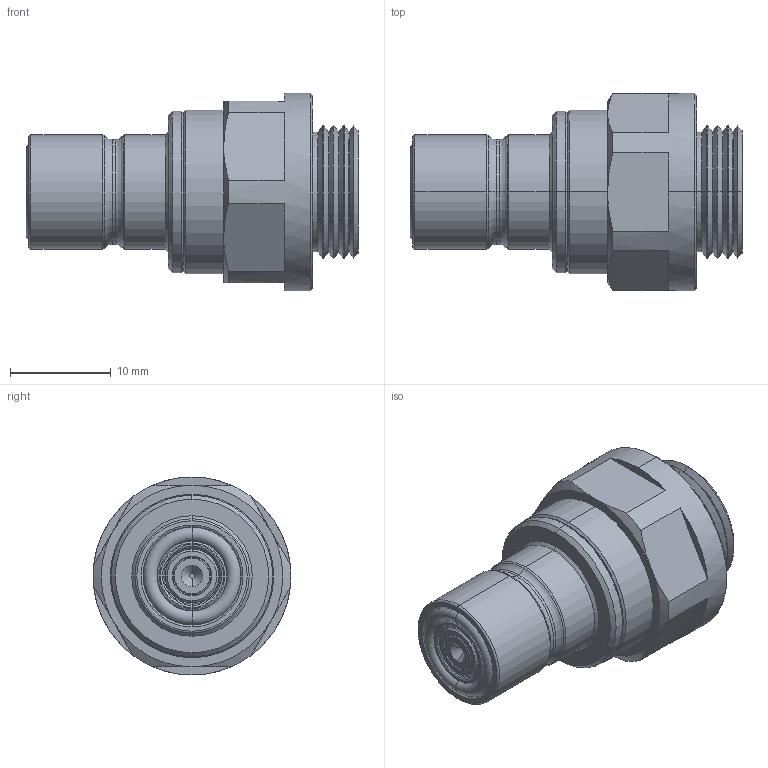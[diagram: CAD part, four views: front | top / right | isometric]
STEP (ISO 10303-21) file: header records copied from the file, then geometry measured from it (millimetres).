
FILE_DESCRIPTION (( 'STEP AP203' ), '1' );
FILE_NAME ('QD2-MTG4.STEP', '2025-01-02T02:52:47', ( 'aksong' ), ( '' ), 'SwSTEP 2.0', 'SolidWorks 2012', '' );
FILE_SCHEMA (( 'CONFIG_CONTROL_DESIGN' ));
Length unit declared in the file: millimetre
Products named in the file (3): male body; G1_4, Male 喻闌; QD2-MTG4
Assembly tree (2 placements, depth 2):
  QD2-MTG4
    male body
    G1_4, Male 喻闌
Bounding box: 32.88 x 19.6 x 19.6 mm (x, y, z)
Volume: 4860 mm3; surface area: 2964.5 mm2
Topology: 2 solids, 2 shells, 125 faces, 260 edges, 150 vertices
Faces by surface type: cone 48, cylinder 34, plane 27, torus 16
Entity records: 3657 total; most frequent: DIRECTION 662, CARTESIAN_POINT 604, ORIENTED_EDGE 520, AXIS2_PLACEMENT_3D 284, EDGE_CURVE 260, CIRCLE 154, VERTEX_POINT 150, EDGE_LOOP 138
